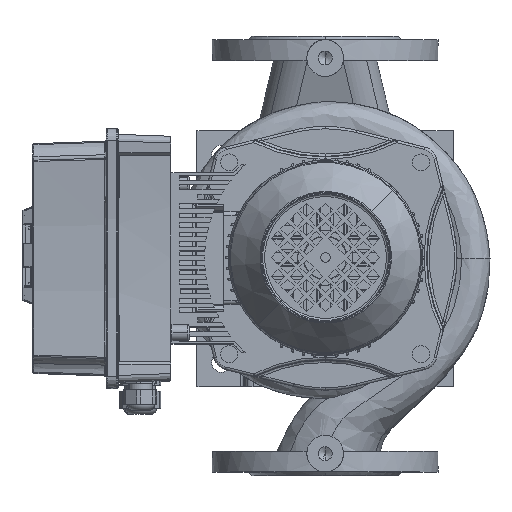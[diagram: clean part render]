
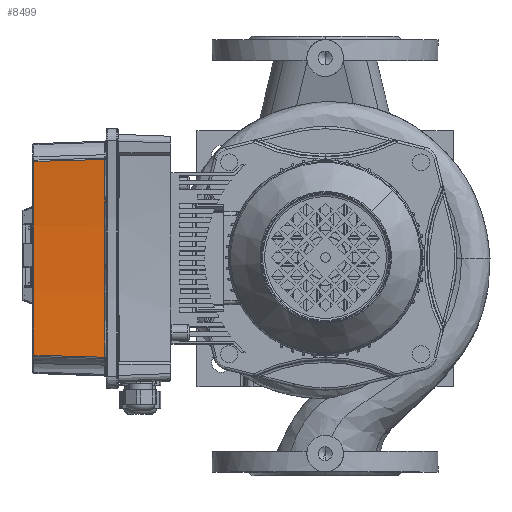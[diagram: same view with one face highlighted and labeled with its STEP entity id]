
A CAD part, top view. The second image highlights one B-rep face of the part: STEP entity #8499.
In plain terms, the highlighted conical face has half-angle 2 degrees and reference radius 845 mm.
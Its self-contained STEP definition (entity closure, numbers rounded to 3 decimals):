
#8499=ADVANCED_FACE('',(#17164),#17165,.F.);
#17164=FACE_OUTER_BOUND('',#39588,.T.);
#17165=CONICAL_SURFACE('',#39589,845.0,0.035);
#39588=EDGE_LOOP('',(#62517,#62518,#62519,#62520));
#39589=AXIS2_PLACEMENT_3D('',#62521,#62522,#62523);
#62517=ORIENTED_EDGE('',*,*,#103420,.F.);
#62518=ORIENTED_EDGE('',*,*,#103475,.F.);
#62519=ORIENTED_EDGE('',*,*,#103436,.F.);
#62520=ORIENTED_EDGE('',*,*,#103464,.F.);
#62521=CARTESIAN_POINT('',(-110.0,1132.065,60.0));
#62522=DIRECTION('',(0.,-0.0,-1.0));
#62523=DIRECTION('',(1.0,0.0,0.));
#103420=EDGE_CURVE('',#134151,#134157,#134158,.T.);
#103436=EDGE_CURVE('',#134178,#134170,#134180,.T.);
#103464=EDGE_CURVE('',#134157,#134178,#134210,.T.);
#103475=EDGE_CURVE('',#134170,#134151,#134222,.T.);
#134151=VERTEX_POINT('',#161640);
#134157=VERTEX_POINT('',#161682);
#134158=B_SPLINE_CURVE_WITH_KNOTS('',3,(#161683,#161684,#161685,#161686,#161687,#161688,#161689,#161690,#161691,#161692,#161693,#161694,#161695,#161696,#161697,#161698,#161699,#161700,#161701,#161702,#161703,#161704,#161705,#161706,#161707),.UNSPECIFIED.,.F.,.F.,(4,3,3,3,3,3,3,3,4),(-60.14,-51.629,-41.43,-35.057,-31.073,-27.089,-20.715,-10.517,-2.006),.UNSPECIFIED.);
#134170=VERTEX_POINT('',#161796);
#134178=VERTEX_POINT('',#161857);
#134180=B_SPLINE_CURVE_WITH_KNOTS('',3,(#161872,#161873,#161874,#161875,#161876,#161877,#161878,#161879,#161880,#161881,#161882,#161883,#161884,#161885,#161886,#161887,#161888,#161889,#161890,#161891,#161892,#161893,#161894,#161895,#161896),.UNSPECIFIED.,.F.,.F.,(4,3,3,3,3,3,3,3,4),(2.006,10.517,20.716,27.09,31.073,35.057,41.431,51.63,60.14),.UNSPECIFIED.);
#134210=CIRCLE('',#162087,847.062);
#134222=CIRCLE('',#162115,845.034);
#161640=CARTESIAN_POINT('',(-190.987,290.921,59.035));
#161682=CARTESIAN_POINT('',(-189.365,288.73,0.965));
#161683=CARTESIAN_POINT('',(-190.987,290.921,59.035));
#161684=CARTESIAN_POINT('',(-190.902,290.814,56.201));
#161685=CARTESIAN_POINT('',(-190.819,290.706,53.368));
#161686=CARTESIAN_POINT('',(-190.736,290.599,50.534));
#161687=CARTESIAN_POINT('',(-190.637,290.47,47.138));
#161688=CARTESIAN_POINT('',(-190.539,290.342,43.743));
#161689=CARTESIAN_POINT('',(-190.442,290.214,40.347));
#161690=CARTESIAN_POINT('',(-190.381,290.133,38.225));
#161691=CARTESIAN_POINT('',(-190.321,290.053,36.103));
#161692=CARTESIAN_POINT('',(-190.261,289.973,33.98));
#161693=CARTESIAN_POINT('',(-190.224,289.923,32.654));
#161694=CARTESIAN_POINT('',(-190.187,289.873,31.327));
#161695=CARTESIAN_POINT('',(-190.15,289.823,30.001));
#161696=CARTESIAN_POINT('',(-190.113,289.773,28.675));
#161697=CARTESIAN_POINT('',(-190.076,289.723,27.348));
#161698=CARTESIAN_POINT('',(-190.04,289.673,26.022));
#161699=CARTESIAN_POINT('',(-189.981,289.593,23.899));
#161700=CARTESIAN_POINT('',(-189.923,289.513,21.777));
#161701=CARTESIAN_POINT('',(-189.865,289.433,19.655));
#161702=CARTESIAN_POINT('',(-189.772,289.305,16.259));
#161703=CARTESIAN_POINT('',(-189.681,289.177,12.863));
#161704=CARTESIAN_POINT('',(-189.59,289.049,9.467));
#161705=CARTESIAN_POINT('',(-189.515,288.943,6.633));
#161706=CARTESIAN_POINT('',(-189.44,288.836,3.799));
#161707=CARTESIAN_POINT('',(-189.365,288.73,0.965));
#161796=CARTESIAN_POINT('',(-29.013,290.921,59.035));
#161857=CARTESIAN_POINT('',(-30.635,288.73,0.965));
#161872=CARTESIAN_POINT('',(-30.635,288.73,0.965));
#161873=CARTESIAN_POINT('',(-30.56,288.836,3.799));
#161874=CARTESIAN_POINT('',(-30.485,288.943,6.633));
#161875=CARTESIAN_POINT('',(-30.41,289.049,9.467));
#161876=CARTESIAN_POINT('',(-30.319,289.177,12.863));
#161877=CARTESIAN_POINT('',(-30.228,289.305,16.259));
#161878=CARTESIAN_POINT('',(-30.135,289.433,19.654));
#161879=CARTESIAN_POINT('',(-30.077,289.513,21.777));
#161880=CARTESIAN_POINT('',(-30.019,289.593,23.899));
#161881=CARTESIAN_POINT('',(-29.96,289.673,26.022));
#161882=CARTESIAN_POINT('',(-29.924,289.723,27.348));
#161883=CARTESIAN_POINT('',(-29.887,289.773,28.674));
#161884=CARTESIAN_POINT('',(-29.85,289.823,30.001));
#161885=CARTESIAN_POINT('',(-29.813,289.873,31.327));
#161886=CARTESIAN_POINT('',(-29.776,289.923,32.654));
#161887=CARTESIAN_POINT('',(-29.739,289.973,33.98));
#161888=CARTESIAN_POINT('',(-29.679,290.053,36.103));
#161889=CARTESIAN_POINT('',(-29.619,290.133,38.225));
#161890=CARTESIAN_POINT('',(-29.558,290.214,40.347));
#161891=CARTESIAN_POINT('',(-29.461,290.342,43.743));
#161892=CARTESIAN_POINT('',(-29.363,290.47,47.139));
#161893=CARTESIAN_POINT('',(-29.264,290.599,50.534));
#161894=CARTESIAN_POINT('',(-29.181,290.706,53.368));
#161895=CARTESIAN_POINT('',(-29.098,290.814,56.201));
#161896=CARTESIAN_POINT('',(-29.013,290.921,59.035));
#162087=AXIS2_PLACEMENT_3D('',#192445,#192446,#192447);
#162115=AXIS2_PLACEMENT_3D('',#192457,#192458,#192459);
#192445=CARTESIAN_POINT('',(-110.0,1132.065,0.965));
#192446=DIRECTION('',(0.,0.,1.0));
#192447=DIRECTION('',(0.0,-1.0,0.));
#192457=CARTESIAN_POINT('',(-110.0,1132.065,59.035));
#192458=DIRECTION('',(-0.0,-0.0,-1.0));
#192459=DIRECTION('',(0.0,-1.0,0.0));
